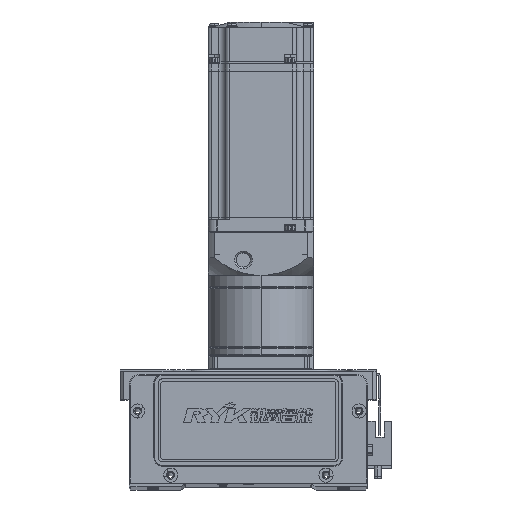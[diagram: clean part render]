
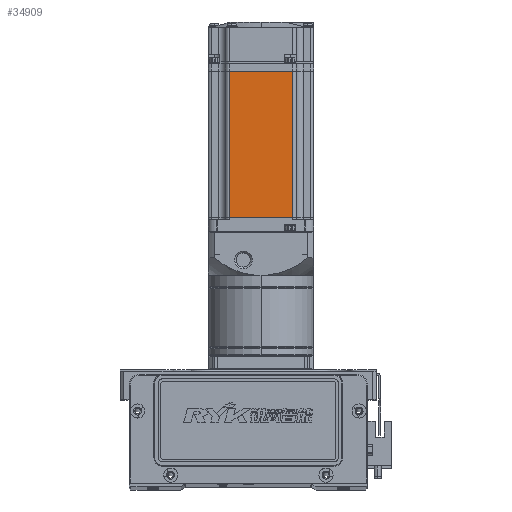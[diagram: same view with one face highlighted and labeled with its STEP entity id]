
A CAD part, top view. The second image highlights one B-rep face of the part: STEP entity #34909.
In plain terms, the highlighted planar face has unit normal (0, 0, 1).
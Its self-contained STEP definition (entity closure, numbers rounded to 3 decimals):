
#803 = EDGE_CURVE ( 'NONE', #42086, #52728, #7000, .T. ) ;
#5766 = CARTESIAN_POINT ( 'NONE',  ( -90.45, 18., 30. ) ) ;
#5776 = ORIENTED_EDGE ( 'NONE', *, *, #803, .F. ) ;
#7000 = LINE ( 'NONE', #63906, #17388 ) ;
#7073 = EDGE_CURVE ( 'NONE', #53241, #42078, #35801, .T. ) ;
#8200 = CARTESIAN_POINT ( 'NONE',  ( -6.5, 18., 30. ) ) ;
#9919 = VECTOR ( 'NONE', #14166, 1000. ) ;
#13875 = CARTESIAN_POINT ( 'NONE',  ( -6.5, -25., 30. ) ) ;
#14166 = DIRECTION ( 'NONE',  ( 0., -1., 0. ) ) ;
#14226 = VECTOR ( 'NONE', #71398, 1000. ) ;
#14901 = VECTOR ( 'NONE', #35211, 1000. ) ;
#16824 = LINE ( 'NONE', #42443, #9919 ) ;
#17388 = VECTOR ( 'NONE', #30698, 1000. ) ;
#24258 = EDGE_CURVE ( 'NONE', #42078, #52728, #16824, .T. ) ;
#25044 = AXIS2_PLACEMENT_3D ( 'NONE', #13875, #41164, #47013 ) ;
#25412 = ORIENTED_EDGE ( 'NONE', *, *, #24258, .T. ) ;
#27622 = CARTESIAN_POINT ( 'NONE',  ( -7.75, 18., 30. ) ) ;
#30698 = DIRECTION ( 'NONE',  ( -1., 0., 0. ) ) ;
#32064 = CARTESIAN_POINT ( 'NONE',  ( -7.75, 0., 30. ) ) ;
#34049 = EDGE_LOOP ( 'NONE', ( #40672, #63796, #25412, #5776 ) ) ;
#34909 = ADVANCED_FACE ( 'NONE', ( #51156 ), #52123, .T. ) ;
#35211 = DIRECTION ( 'NONE',  ( -1., 0., 0. ) ) ;
#35801 = LINE ( 'NONE', #8200, #14901 ) ;
#40672 = ORIENTED_EDGE ( 'NONE', *, *, #61827, .F. ) ;
#41164 = DIRECTION ( 'NONE',  ( 0., 0., 1. ) ) ;
#42078 = VERTEX_POINT ( 'NONE', #5766 ) ;
#42086 = VERTEX_POINT ( 'NONE', #57195 ) ;
#42443 = CARTESIAN_POINT ( 'NONE',  ( -90.45, 0., 30. ) ) ;
#47013 = DIRECTION ( 'NONE',  ( 1., 0., 0. ) ) ;
#49972 = LINE ( 'NONE', #32064, #14226 ) ;
#51156 = FACE_OUTER_BOUND ( 'NONE', #34049, .T. ) ;
#52123 = PLANE ( 'NONE',  #25044 ) ;
#52728 = VERTEX_POINT ( 'NONE', #60477 ) ;
#53241 = VERTEX_POINT ( 'NONE', #27622 ) ;
#57195 = CARTESIAN_POINT ( 'NONE',  ( -7.75, -18., 30. ) ) ;
#60477 = CARTESIAN_POINT ( 'NONE',  ( -90.45, -18., 30. ) ) ;
#61827 = EDGE_CURVE ( 'NONE', #53241, #42086, #49972, .T. ) ;
#63796 = ORIENTED_EDGE ( 'NONE', *, *, #7073, .T. ) ;
#63906 = CARTESIAN_POINT ( 'NONE',  ( -6.5, -18., 30. ) ) ;
#71398 = DIRECTION ( 'NONE',  ( 0., -1., 0. ) ) ;
